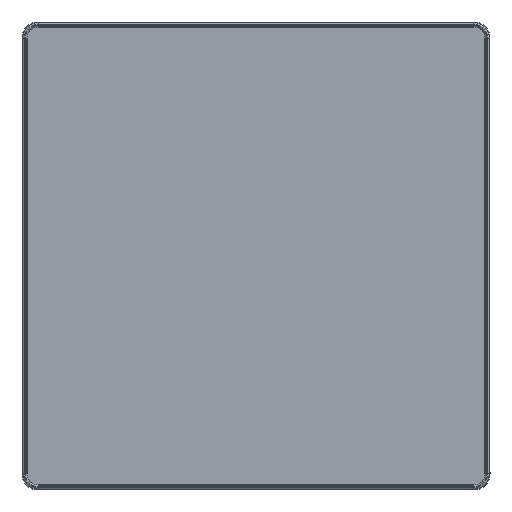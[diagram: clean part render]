
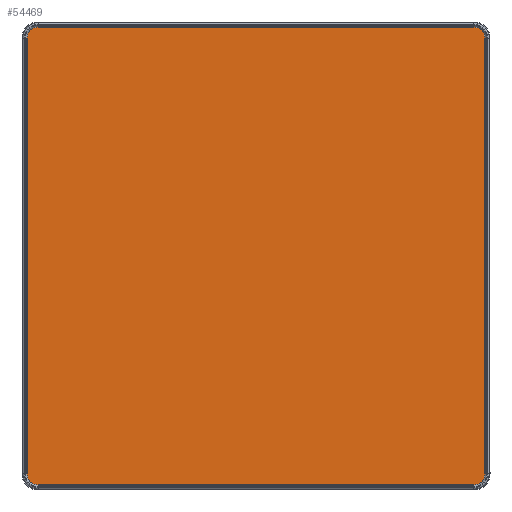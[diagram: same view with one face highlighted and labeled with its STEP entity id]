
A CAD part, top view. The second image highlights one B-rep face of the part: STEP entity #54469.
In plain terms, the highlighted planar face has unit normal (0, 0, 1).
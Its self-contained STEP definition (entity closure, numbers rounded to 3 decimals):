
#3512=CIRCLE('',#57475,3.4);
#3513=CIRCLE('',#57476,3.4);
#3514=CIRCLE('',#57477,3.4);
#3515=CIRCLE('',#57478,3.4);
#5266=FACE_OUTER_BOUND('',#8444,.T.);
#8444=EDGE_LOOP('',(#39978,#39979,#39980,#39981,#39982,#39983,#39984,#39985));
#12848=LINE('',#122851,#18716);
#12849=LINE('',#122855,#18717);
#12850=LINE('',#122859,#18718);
#12851=LINE('',#122863,#18719);
#18716=VECTOR('',#64082,1.);
#18717=VECTOR('',#64085,1.);
#18718=VECTOR('',#64088,1.);
#18719=VECTOR('',#64091,1.);
#24781=VERTEX_POINT('',#122849);
#24782=VERTEX_POINT('',#122850);
#24783=VERTEX_POINT('',#122852);
#24784=VERTEX_POINT('',#122854);
#24785=VERTEX_POINT('',#122856);
#24786=VERTEX_POINT('',#122858);
#24787=VERTEX_POINT('',#122860);
#24788=VERTEX_POINT('',#122862);
#30647=EDGE_CURVE('',#24781,#24782,#12848,.T.);
#30648=EDGE_CURVE('',#24782,#24783,#3512,.T.);
#30649=EDGE_CURVE('',#24783,#24784,#12849,.T.);
#30650=EDGE_CURVE('',#24784,#24785,#3513,.T.);
#30651=EDGE_CURVE('',#24785,#24786,#12850,.T.);
#30652=EDGE_CURVE('',#24786,#24787,#3514,.T.);
#30653=EDGE_CURVE('',#24787,#24788,#12851,.T.);
#30654=EDGE_CURVE('',#24788,#24781,#3515,.T.);
#39978=ORIENTED_EDGE('',*,*,#30647,.T.);
#39979=ORIENTED_EDGE('',*,*,#30648,.T.);
#39980=ORIENTED_EDGE('',*,*,#30649,.T.);
#39981=ORIENTED_EDGE('',*,*,#30650,.T.);
#39982=ORIENTED_EDGE('',*,*,#30651,.T.);
#39983=ORIENTED_EDGE('',*,*,#30652,.T.);
#39984=ORIENTED_EDGE('',*,*,#30653,.T.);
#39985=ORIENTED_EDGE('',*,*,#30654,.T.);
#52010=PLANE('',#57474);
#54469=ADVANCED_FACE('',(#5266),#52010,.T.);
#57474=AXIS2_PLACEMENT_3D('',#122848,#64080,#64081);
#57475=AXIS2_PLACEMENT_3D('',#122853,#64083,#64084);
#57476=AXIS2_PLACEMENT_3D('',#122857,#64086,#64087);
#57477=AXIS2_PLACEMENT_3D('',#122861,#64089,#64090);
#57478=AXIS2_PLACEMENT_3D('',#122864,#64092,#64093);
#64080=DIRECTION('center_axis',(0.,0.,1.));
#64081=DIRECTION('ref_axis',(-1.,0.,0.));
#64082=DIRECTION('',(0.,1.,0.));
#64083=DIRECTION('center_axis',(0.,0.,1.));
#64084=DIRECTION('ref_axis',(1.,0.,0.));
#64085=DIRECTION('',(-1.,0.,0.));
#64086=DIRECTION('center_axis',(0.,0.,1.));
#64087=DIRECTION('ref_axis',(1.,0.,0.));
#64088=DIRECTION('',(0.,-1.,0.));
#64089=DIRECTION('center_axis',(0.,0.,1.));
#64090=DIRECTION('ref_axis',(1.,0.,0.));
#64091=DIRECTION('',(1.,0.,0.));
#64092=DIRECTION('center_axis',(0.,0.,1.));
#64093=DIRECTION('ref_axis',(1.,0.,0.));
#122848=CARTESIAN_POINT('Origin',(70.4,-70.4,5.1));
#122849=CARTESIAN_POINT('',(70.4,-67.,5.1));
#122850=CARTESIAN_POINT('',(70.4,67.,5.1));
#122851=CARTESIAN_POINT('',(70.4,70.4,5.1));
#122852=CARTESIAN_POINT('',(67.,70.4,5.1));
#122853=CARTESIAN_POINT('Origin',(67.,67.,5.1));
#122854=CARTESIAN_POINT('',(-67.,70.4,5.1));
#122855=CARTESIAN_POINT('',(-70.4,70.4,5.1));
#122856=CARTESIAN_POINT('',(-70.4,67.,5.1));
#122857=CARTESIAN_POINT('Origin',(-67.,67.,5.1));
#122858=CARTESIAN_POINT('',(-70.4,-67.,5.1));
#122859=CARTESIAN_POINT('',(-70.4,70.4,5.1));
#122860=CARTESIAN_POINT('',(-67.,-70.4,5.1));
#122861=CARTESIAN_POINT('Origin',(-67.,-67.,5.1));
#122862=CARTESIAN_POINT('',(67.,-70.4,5.1));
#122863=CARTESIAN_POINT('',(-70.4,-70.4,5.1));
#122864=CARTESIAN_POINT('Origin',(67.,-67.,5.1));
